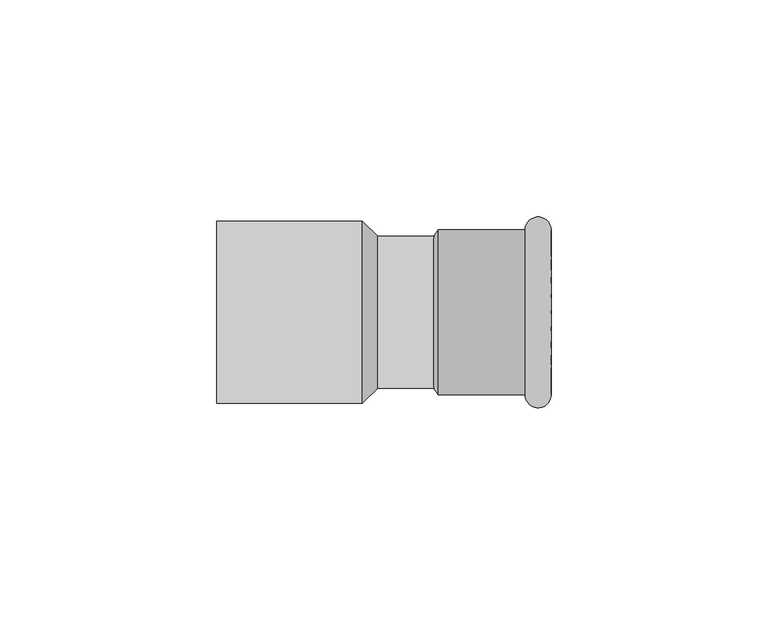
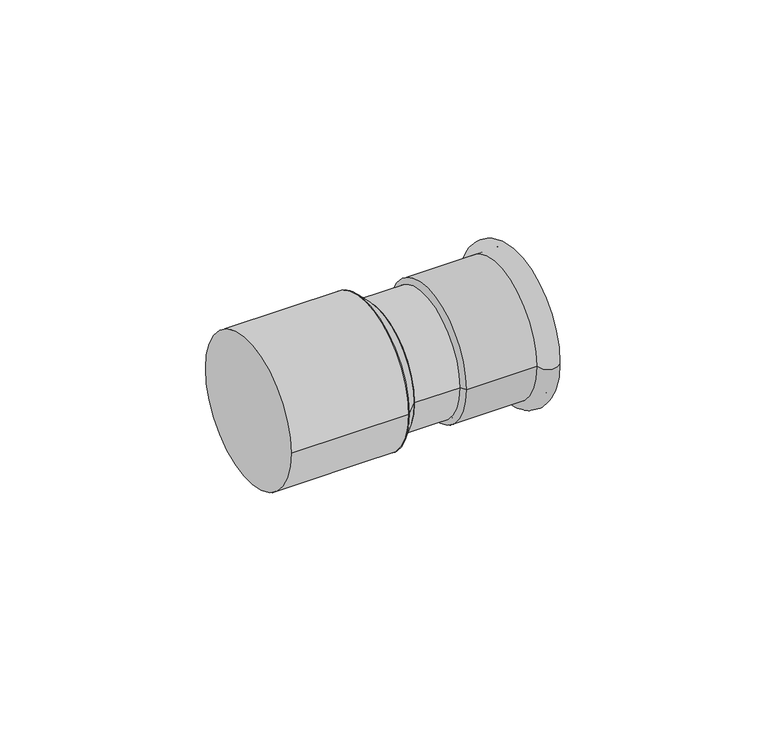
"""IFC4 building model written with IfcOpenShell, lengths in millimetres: pipe fitting geometry, NLRS_50_PIF_UN_Geberit Mapress Therm verloop met insteekeinde_PRO_3207557 : DN10-100 / d12-108 - OD."""

from ifc_helpers import new_model, si_unit, point, frame, origin, origin_2d, place, context, project, spatial, polyline, circle_curve, ellipse_curve, trimmed, segment, composite_curve, outline, extrude, source, transform, mapped, element, save
from ifc_brep_helpers import plane_surface, cylinder_surface, revolved_surface, advanced_brep


def pipe_fitting_c2962759(model_context):
    return source(origin(), model_context, "Body", "SolidModel", [
        advanced_brep(
        [(77.0, -19.0, 0.0), (77.0, 19.0, 0.0), (71.0, 19.0, 0.0), (71.0, -19.0, 0.0)],
        [
            (0, 1, circle_curve(frame((77.0, 0.0, 0.0), z_axis=(1.0, 0.0, 0.0), x_axis=(0.0, 1.0, 0.0)), 19.0)),
            (1, 2),
            (2, 3, circle_curve(frame((71.0, 0.0, 0.0), z_axis=(-1.0, 0.0, 0.0), x_axis=(0.0, 1.0, 0.0)), 19.0)),
            (3, 0),
            (1, 0, circle_curve(frame((77.0, 0.0, 0.0), z_axis=(1.0, 0.0, 0.0), x_axis=(0.0, 1.0, 0.0)), 19.0)),
            (3, 2, circle_curve(frame((71.0, 0.0, 0.0), z_axis=(-1.0, 0.0, 0.0), x_axis=(0.0, 1.0, 0.0)), 19.0)),
            (2, 1, circle_curve(frame((74.0, 19.0, 0.0), z_axis=(0.0, 0.0, -1.0), x_axis=(1.0, 0.0, 0.0)), 3.0)),
            (0, 3, circle_curve(frame((74.0, -19.0, 0.0), z_axis=(0.0, 0.0, -1.0), x_axis=(1.0, 0.0, 0.0)), 3.0)),
        ],
        [
            revolved_surface(polyline([(71.0, 19.0, 0.0), (77.0, 19.0, 0.0)]), (51.0, 0.0, 0.0), (-1.0, 0.0, 0.0)),
            revolved_surface(trimmed(ellipse_curve(frame((74.0, 19.0, 0.0), z_axis=(0.0, 0.0, 1.0), x_axis=(1.0, 0.0, 0.0)), 3.0, 3.0), [point((77.0, 19.0, 0.0))], [point((71.0, 19.0, 0.0))], True, "CARTESIAN"), (51.0, 0.0, 0.0), (-1.0, 0.0, 0.0)),
        ],
        [
            (0, [[1, 2, 3, 4]]),
            (0, [[5, -4, 6, -2]]),
            (1, [[-3, 7, -1, 8]]),
            (1, [[-6, -8, -5, -7]]),
        ],
    ),
        advanced_brep(
        [(77.0, -17.5, 0.0), (77.0, 17.5, 0.0), (50.0, 17.5, 0.0), (50.0, -17.5, 0.0), (77.0, -19.0, 0.0), (77.0, 19.0, 0.0), (51.0, -19.0, 0.0), (51.0, 19.0, 0.0)],
        [
            (0, 1, circle_curve(frame((77.0, 0.0, 0.0), z_axis=(1.0, 0.0, 0.0), x_axis=(0.0, 1.0, 0.0)), 17.5)),
            (1, 2),
            (2, 3, circle_curve(frame((50.0, 0.0, 0.0), z_axis=(-1.0, 0.0, 0.0), x_axis=(0.0, 1.0, 0.0)), 17.5)),
            (3, 0),
            (1, 0, circle_curve(frame((77.0, 0.0, 0.0), z_axis=(1.0, 0.0, 0.0), x_axis=(0.0, 1.0, 0.0)), 17.5)),
            (3, 2, circle_curve(frame((50.0, 0.0, 0.0), z_axis=(-1.0, 0.0, 0.0), x_axis=(0.0, 1.0, 0.0)), 17.5)),
            (4, 5, circle_curve(frame((77.0, 0.0, 0.0), z_axis=(1.0, 0.0, 0.0), x_axis=(0.0, 1.0, 0.0)), 19.0)),
            (5, 1),
            (0, 4),
            (5, 4, circle_curve(frame((77.0, 0.0, 0.0), z_axis=(1.0, 0.0, 0.0), x_axis=(0.0, 1.0, 0.0)), 19.0)),
            (6, 7, circle_curve(frame((51.0, 0.0, 0.0), z_axis=(1.0, 0.0, 0.0), x_axis=(0.0, 1.0, 0.0)), 19.0)),
            (7, 5),
            (4, 6),
            (7, 6, circle_curve(frame((51.0, 0.0, 0.0), z_axis=(1.0, 0.0, 0.0), x_axis=(0.0, 1.0, 0.0)), 19.0)),
            (2, 7),
            (6, 3),
        ],
        [
            revolved_surface(polyline([(50.0, 17.5, 0.0), (77.0, 17.5, 0.0)]), (51.0, 0.0, 0.0), (-1.0, 0.0, 0.0)),
            plane_surface(frame((77.0, 0.0, 0.0), z_axis=(1.0, 0.0, 0.0), x_axis=(0.0, 1.0, 0.0))),
            cylinder_surface(frame((51.0, 0.0, 0.0), z_axis=(-1.0, 0.0, 0.0), x_axis=(0.0, 1.0, 0.0)), 19.0),
            revolved_surface(polyline([(51.0, 19.0, 0.0), (50.0, 17.5, 0.0)]), (51.0, 0.0, 0.0), (-1.0, 0.0, 0.0)),
        ],
        [
            (0, [[1, 2, 3, 4]]),
            (0, [[5, -4, 6, -2]]),
            (1, [[7, 8, -1, 9]]),
            (1, [[10, -9, -5, -8]]),
            (2, [[11, 12, -7, 13]]),
            (2, [[14, -13, -10, -12]]),
            (3, [[-3, 15, -11, 16]]),
            (3, [[-6, -16, -14, -15]]),
        ],
    ),
        extrude(outline(composite_curve([segment(trimmed(circle_curve(origin_2d(), 17.5), [point((-17.5, 0.0))], [point((17.5, 0.0))], False, "CARTESIAN"), True, "CONTINUOUS"), segment(trimmed(circle_curve(origin_2d(), 17.5), [point((17.5, 0.0))], [point((-17.5, 0.0))], False, "CARTESIAN"), True, "CONTINUOUS")], self_intersect=False)), frame((37.0294118, 0.0, 0.0), z_axis=(1.0, 0.0, 0.0), x_axis=(0.0, 1.0, 0.0)), (0.0, 0.0, 1.0), 13.9705882),
        advanced_brep(
        [(37.0294118, -17.5, 0.0), (37.0294118, 17.5, 0.0), (33.5294118, -21.0, 0.0), (33.5294118, 21.0, 0.0)],
        [
            (0, 1, circle_curve(frame((37.0294118, 0.0, 0.0), z_axis=(1.0, 0.0, 0.0), x_axis=(0.0, -1.0, 0.0)), 17.5)),
            (1, 0, circle_curve(frame((37.0294118, 0.0, 0.0), z_axis=(1.0, 0.0, 0.0), x_axis=(0.0, 1.0, 0.0)), 17.5)),
            (2, 3, circle_curve(frame((33.5294118, 0.0, 0.0), z_axis=(-1.0, 0.0, 0.0), x_axis=(0.0, 1.0, 0.0)), 21.0)),
            (3, 2, circle_curve(frame((33.5294118, 0.0, 0.0), z_axis=(-1.0, 0.0, 0.0), x_axis=(0.0, -1.0, 0.0)), 21.0)),
            (3, 1),
            (0, 2),
        ],
        [
            plane_surface(frame((37.0294118, 0.0, 0.0), z_axis=(1.0, 0.0, 0.0), x_axis=(0.0, 0.0, -1.0))),
            plane_surface(frame((33.5294118, 0.0, 0.0), z_axis=(-1.0, 0.0, 0.0), x_axis=(0.0, 0.0, -1.0))),
            revolved_surface(polyline([(37.0294118, -17.5, 0.0), (33.5294118, -21.0, 0.0)]), (54.5294118, 0.0, 0.0), (-1.0, 0.0, 0.0)),
            revolved_surface(polyline([(37.0294118, 17.5, 0.0), (33.5294118, 21.0, 0.0)]), (54.5294118, 0.0, 0.0), (-1.0, 0.0, 0.0)),
        ],
        [
            (0, [[1, 2]]),
            (1, [[3, 4]]),
            (2, [[-4, 5, -1, 6]]),
            (3, [[-3, -6, -2, -5]]),
        ],
    ),
        extrude(outline(composite_curve([segment(trimmed(circle_curve(origin_2d(), 21.0), [point((-21.0, 0.0))], [point((21.0, 0.0))], False, "CARTESIAN"), True, "CONTINUOUS"), segment(trimmed(circle_curve(origin_2d(), 21.0), [point((21.0, 0.0))], [point((-21.0, 0.0))], False, "CARTESIAN"), True, "CONTINUOUS")], self_intersect=False)), frame((0.0, 0.0, 0.0), z_axis=(1.0, 0.0, 0.0), x_axis=(0.0, 1.0, 0.0)), (0.0, 0.0, 1.0), 33.5294118),
    ])


if __name__ == "__main__":
    model = new_model("IFC4")
    model_context = context("Model", 3, world=origin())
    ifc_project = project(units=[si_unit("LENGTHUNIT", "METRE", prefix="MILLI")], contexts=[model_context])
    site = spatial("IfcSite", under=ifc_project)
    building = spatial("IfcBuilding", under=site)
    placement = place(None, origin())
    pipe_fitting_shape = pipe_fitting_c2962759(model_context)
    element("IfcPipeFitting", 1, ObjectType="NLRS_50_PIF_UN_Geberit Mapress Therm verloop met insteekeinde_PRO_3207557 : DN10-100 / d12-108 - OD", at=placement, inside=building, context=model_context, shape_type="MappedRepresentation", body=[
        mapped(pipe_fitting_shape, transform((0.0, 0.0, 0.0), x_axis=(1.0, 0.0, 0.0), y_axis=(0.0, 1.0, 0.0), z_axis=(0.0, 0.0, 1.0))),
    ])
    save(model, "model.ifc")
